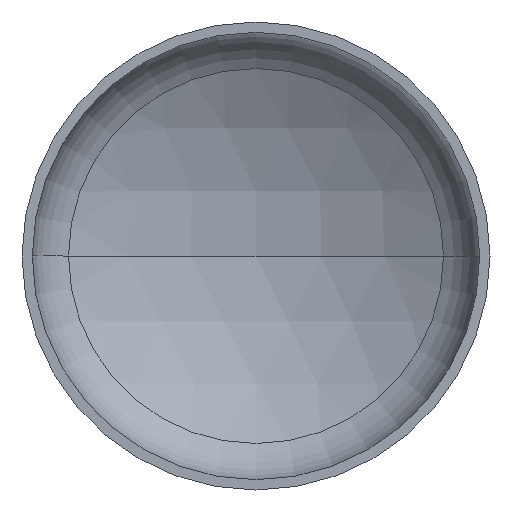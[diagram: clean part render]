
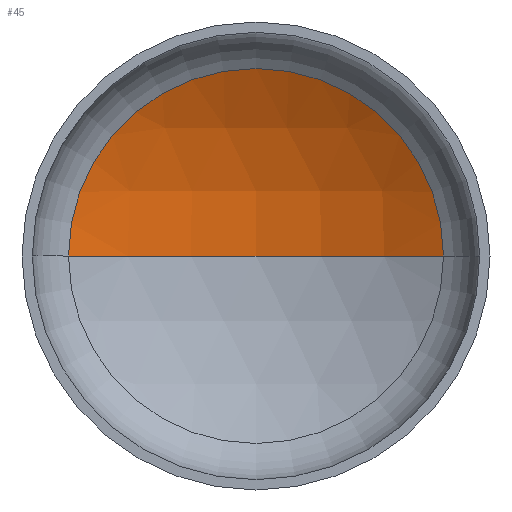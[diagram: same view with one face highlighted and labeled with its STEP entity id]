
A CAD part, front view. The second image highlights one B-rep face of the part: STEP entity #45.
In plain terms, the highlighted spherical face has radius 1600 mm.
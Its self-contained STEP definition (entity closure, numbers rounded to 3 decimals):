
#4 = EDGE_LOOP ( 'NONE', ( #38, #183, #34 ) ) ;
#11 = VERTEX_POINT ( 'NONE', #368 ) ;
#22 = DIRECTION ( 'NONE',  ( 1., 0., 0. ) ) ;
#34 = ORIENTED_EDGE ( 'NONE', *, *, #128, .T. ) ;
#38 = ORIENTED_EDGE ( 'NONE', *, *, #149, .F. ) ;
#45 = ADVANCED_FACE ( 'NONE', ( #296 ), #138, .F. ) ;
#46 = AXIS2_PLACEMENT_3D ( 'NONE', #196, #209, #210 ) ;
#51 = AXIS2_PLACEMENT_3D ( 'NONE', #242, #199, #337 ) ;
#55 = AXIS2_PLACEMENT_3D ( 'NONE', #357, #215, #22 ) ;
#58 = VERTEX_POINT ( 'NONE', #234 ) ;
#91 = AXIS2_PLACEMENT_3D ( 'NONE', #300, #278, #255 ) ;
#128 = EDGE_CURVE ( 'NONE', #58, #11, #170, .T. ) ;
#138 = SPHERICAL_SURFACE ( 'NONE', #91, 1600. ) ;
#139 = EDGE_CURVE ( 'NONE', #303, #58, #166, .T. ) ;
#149 = EDGE_CURVE ( 'NONE', #303, #11, #399, .T. ) ;
#166 = CIRCLE ( 'NONE', #51, 1600. ) ;
#170 = CIRCLE ( 'NONE', #55, 801.24 ) ;
#183 = ORIENTED_EDGE ( 'NONE', *, *, #139, .T. ) ;
#191 = CARTESIAN_POINT ( 'NONE',  ( 0., 623.405, 0. ) ) ;
#196 = CARTESIAN_POINT ( 'NONE',  ( 0., -976.595, 0. ) ) ;
#199 = DIRECTION ( 'NONE',  ( 0., 0., -1. ) ) ;
#209 = DIRECTION ( 'NONE',  ( 0., 0., 1. ) ) ;
#210 = DIRECTION ( 'NONE',  ( 1., 0., 0. ) ) ;
#215 = DIRECTION ( 'NONE',  ( 0., -1., 0. ) ) ;
#234 = CARTESIAN_POINT ( 'NONE',  ( 801.24, 408.329, 0. ) ) ;
#242 = CARTESIAN_POINT ( 'NONE',  ( 0., -976.595, 0. ) ) ;
#255 = DIRECTION ( 'NONE',  ( -1., 0., 0. ) ) ;
#278 = DIRECTION ( 'NONE',  ( 0., 0., -1. ) ) ;
#296 = FACE_OUTER_BOUND ( 'NONE', #4, .T. ) ;
#300 = CARTESIAN_POINT ( 'NONE',  ( 0., -976.595, 0. ) ) ;
#303 = VERTEX_POINT ( 'NONE', #191 ) ;
#337 = DIRECTION ( 'NONE',  ( -1., 0., 0. ) ) ;
#357 = CARTESIAN_POINT ( 'NONE',  ( 0., 408.329, 0. ) ) ;
#368 = CARTESIAN_POINT ( 'NONE',  ( -801.24, 408.329, 0. ) ) ;
#399 = CIRCLE ( 'NONE', #46, 1600. ) ;
